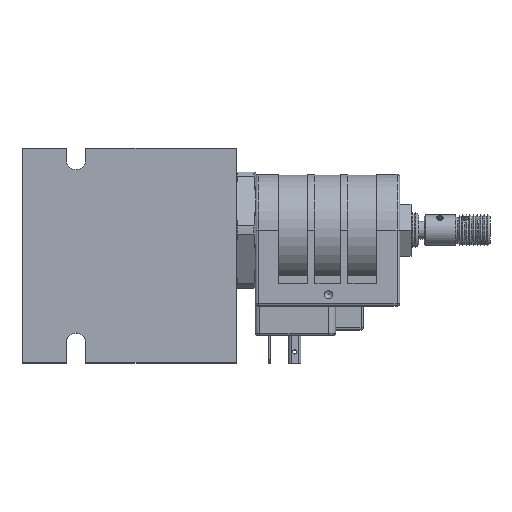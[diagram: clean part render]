
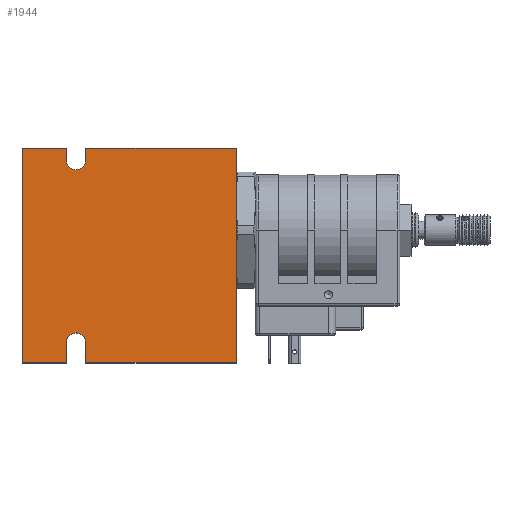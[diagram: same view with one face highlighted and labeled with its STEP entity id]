
A CAD part, top view. The second image highlights one B-rep face of the part: STEP entity #1944.
In plain terms, the highlighted planar face has unit normal (0, 0, 1).
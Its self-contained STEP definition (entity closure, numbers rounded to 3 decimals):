
#1944 = ADVANCED_FACE( '', ( #4140 ), #4141, .F. );
#4140 = FACE_OUTER_BOUND( '', #6799, .T. );
#4141 = PLANE( '', #6800 );
#6799 = EDGE_LOOP( '', ( #11660, #11661, #11662, #11663, #11664, #11665, #11666, #11667, #11668, #11669, #11670, #11671 ) );
#6800 = AXIS2_PLACEMENT_3D( '', #11672, #11673, #11674 );
#11660 = ORIENTED_EDGE( '', *, *, #16588, .F. );
#11661 = ORIENTED_EDGE( '', *, *, #16792, .F. );
#11662 = ORIENTED_EDGE( '', *, *, #16591, .F. );
#11663 = ORIENTED_EDGE( '', *, *, #15775, .F. );
#11664 = ORIENTED_EDGE( '', *, *, #16793, .F. );
#11665 = ORIENTED_EDGE( '', *, *, #16091, .F. );
#11666 = ORIENTED_EDGE( '', *, *, #16794, .F. );
#11667 = ORIENTED_EDGE( '', *, *, #15848, .T. );
#11668 = ORIENTED_EDGE( '', *, *, #16795, .T. );
#11669 = ORIENTED_EDGE( '', *, *, #15546, .T. );
#11670 = ORIENTED_EDGE( '', *, *, #16796, .F. );
#11671 = ORIENTED_EDGE( '', *, *, #16797, .F. );
#11672 = CARTESIAN_POINT( '', ( 0., 0., 50.8 ) );
#11673 = DIRECTION( '', ( 0., 0., -1. ) );
#11674 = DIRECTION( '', ( -1., 0., 0. ) );
#15546 = EDGE_CURVE( '', #18827, #18825, #18828, .T. );
#15775 = EDGE_CURVE( '', #19212, #19214, #19215, .T. );
#15848 = EDGE_CURVE( '', #19339, #19337, #19340, .T. );
#16091 = EDGE_CURVE( '', #19742, #19744, #19745, .T. );
#16588 = EDGE_CURVE( '', #20525, #20527, #20528, .T. );
#16591 = EDGE_CURVE( '', #19214, #20531, #20532, .T. );
#16792 = EDGE_CURVE( '', #20531, #20525, #20843, .T. );
#16793 = EDGE_CURVE( '', #19744, #19212, #20844, .T. );
#16794 = EDGE_CURVE( '', #19339, #19742, #20845, .T. );
#16795 = EDGE_CURVE( '', #19337, #18827, #20846, .T. );
#16796 = EDGE_CURVE( '', #20847, #18825, #20848, .T. );
#16797 = EDGE_CURVE( '', #20527, #20847, #20849, .T. );
#18825 = VERTEX_POINT( '', #24346 );
#18827 = VERTEX_POINT( '', #24349 );
#18828 = LINE( '', #24350, #24351 );
#19212 = VERTEX_POINT( '', #25228 );
#19214 = VERTEX_POINT( '', #25231 );
#19215 = LINE( '', #25232, #25233 );
#19337 = VERTEX_POINT( '', #25522 );
#19339 = VERTEX_POINT( '', #25525 );
#19340 = LINE( '', #25526, #25527 );
#19742 = VERTEX_POINT( '', #26391 );
#19744 = VERTEX_POINT( '', #26394 );
#19745 = LINE( '', #26395, #26396 );
#20525 = VERTEX_POINT( '', #28090 );
#20527 = VERTEX_POINT( '', #28093 );
#20528 = LINE( '', #28094, #28095 );
#20531 = VERTEX_POINT( '', #28099 );
#20532 = CIRCLE( '', #28100, 3.5 );
#20843 = LINE( '', #28960, #28961 );
#20844 = LINE( '', #28962, #28963 );
#20845 = LINE( '', #28964, #28965 );
#20846 = CIRCLE( '', #28966, 3.5 );
#20847 = VERTEX_POINT( '', #28967 );
#20848 = LINE( '', #28968, #28969 );
#20849 = LINE( '', #28970, #28971 );
#24346 = CARTESIAN_POINT( '', ( -22.4, 38.1, 50.8 ) );
#24349 = CARTESIAN_POINT( '', ( -22.4, 34., 50.8 ) );
#24350 = CARTESIAN_POINT( '', ( -22.4, 34., 50.8 ) );
#24351 = VECTOR( '', #32834, 1000. );
#25228 = CARTESIAN_POINT( '', ( -15.4, -38.1, 50.8 ) );
#25231 = CARTESIAN_POINT( '', ( -15.4, -31., 50.8 ) );
#25232 = CARTESIAN_POINT( '', ( -15.4, -31., 50.8 ) );
#25233 = VECTOR( '', #33057, 1000. );
#25522 = CARTESIAN_POINT( '', ( -15.4, 34., 50.8 ) );
#25525 = CARTESIAN_POINT( '', ( -15.4, 38.1, 50.8 ) );
#25526 = CARTESIAN_POINT( '', ( -15.4, 34., 50.8 ) );
#25527 = VECTOR( '', #33133, 1000. );
#26391 = CARTESIAN_POINT( '', ( 38.1, 38.1, 50.8 ) );
#26394 = CARTESIAN_POINT( '', ( 38.1, -38.1, 50.8 ) );
#26395 = CARTESIAN_POINT( '', ( 38.1, 38.1, 50.8 ) );
#26396 = VECTOR( '', #33328, 1000. );
#28090 = CARTESIAN_POINT( '', ( -22.4, -38.1, 50.8 ) );
#28093 = CARTESIAN_POINT( '', ( -38.1, -38.1, 50.8 ) );
#28094 = CARTESIAN_POINT( '', ( 38.1, -38.1, 50.8 ) );
#28095 = VECTOR( '', #33753, 1000. );
#28099 = CARTESIAN_POINT( '', ( -22.4, -31., 50.8 ) );
#28100 = AXIS2_PLACEMENT_3D( '', #33755, #33756, #33757 );
#28960 = CARTESIAN_POINT( '', ( -22.4, -31., 50.8 ) );
#28961 = VECTOR( '', #33915, 1000. );
#28962 = CARTESIAN_POINT( '', ( 38.1, -38.1, 50.8 ) );
#28963 = VECTOR( '', #33916, 1000. );
#28964 = CARTESIAN_POINT( '', ( -38.1, 38.1, 50.8 ) );
#28965 = VECTOR( '', #33917, 1000. );
#28966 = AXIS2_PLACEMENT_3D( '', #33918, #33919, #33920 );
#28967 = CARTESIAN_POINT( '', ( -38.1, 38.1, 50.8 ) );
#28968 = CARTESIAN_POINT( '', ( -38.1, 38.1, 50.8 ) );
#28969 = VECTOR( '', #33921, 1000. );
#28970 = CARTESIAN_POINT( '', ( -38.1, -38.1, 50.8 ) );
#28971 = VECTOR( '', #33922, 1000. );
#32834 = DIRECTION( '', ( 0., 1., 0. ) );
#33057 = DIRECTION( '', ( 0., 1., 0. ) );
#33133 = DIRECTION( '', ( 0., -1., 0. ) );
#33328 = DIRECTION( '', ( 0., -1., 0. ) );
#33753 = DIRECTION( '', ( -1., 0., 0. ) );
#33755 = CARTESIAN_POINT( '', ( -18.9, -31., 50.8 ) );
#33756 = DIRECTION( '', ( 0., 0., 1. ) );
#33757 = DIRECTION( '', ( 1., 0., 0. ) );
#33915 = DIRECTION( '', ( 0., -1., 0. ) );
#33916 = DIRECTION( '', ( -1., 0., 0. ) );
#33917 = DIRECTION( '', ( 1., 0., 0. ) );
#33918 = CARTESIAN_POINT( '', ( -18.9, 34., 50.8 ) );
#33919 = DIRECTION( '', ( 0., 0., -1. ) );
#33920 = DIRECTION( '', ( 1., 0., 0. ) );
#33921 = DIRECTION( '', ( 1., 0., 0. ) );
#33922 = DIRECTION( '', ( 0., 1., 0. ) );
